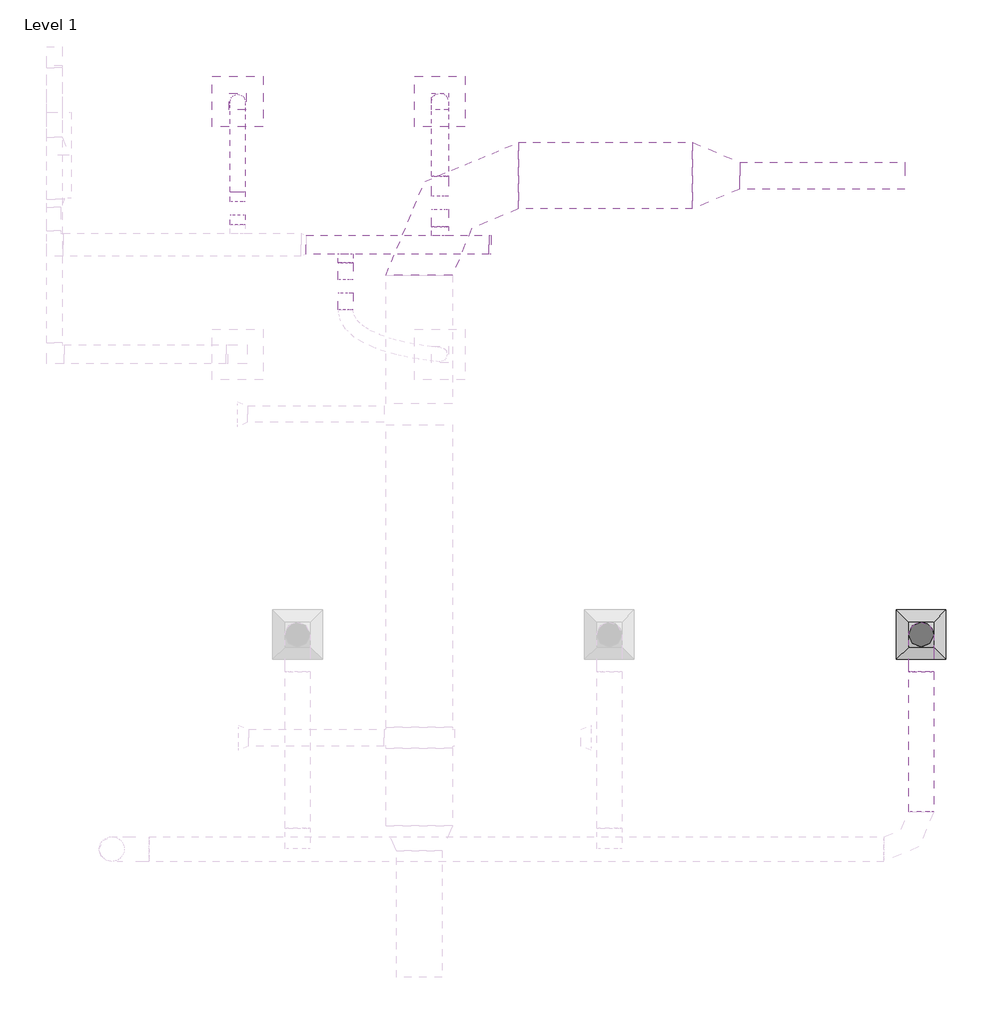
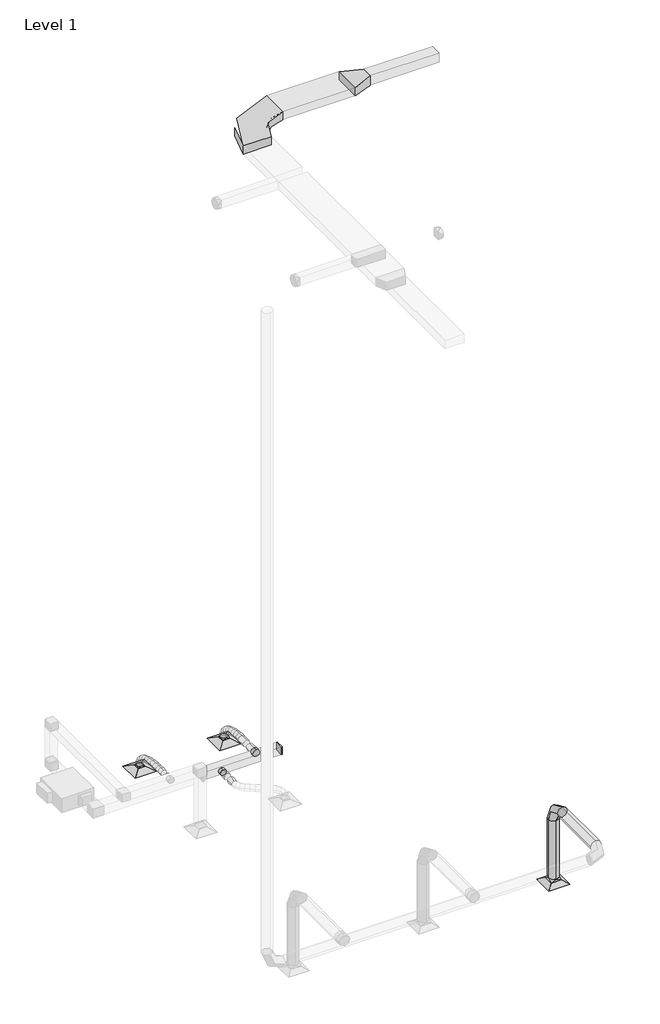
# One storey, part 7 of 7: 13 duct segments, 9 duct fittings, 3 air terminals.
"""IFC4 building model written with IfcOpenShell, lengths in millimetres."""

from ifc_helpers import new_model, si_unit, point, frame, frame_2d, origin, place, context, project, spatial, polyline, circle_curve, ellipse_curve, trimmed, segment, composite_curve, outline, extrude, transform, mapped, element, save
from ifc_brep_helpers import plane_surface, cylinder_surface, advanced_brep
from components import extract_grille_600_x_600_face_300_x_300_connection_8a0e72a1, return_diffuser_24_x_24_face_8_x_8_connection_c93705df, rectangular_elbow_radius_1_5_w_4ddcde65, rectangular_endcap_standard_343960f6, rectangular_transition_angle_45_degree_7bdca568, rectangular_to_round_transition_angle_45_degree_641efff0, rectangular_to_round_transition_angle_45_degree_5a025447, rectangular_to_round_transition_angle_45_degree_714b46fd, round_elbow_1_5_d_ee9da881, round_takeoff_standard_1127d77f, round_takeoff_standard_bc61291d

model = new_model("IFC4")

# Units and contexts
model_context = context("Model", 3, world=origin())
ifc_project = project(units=[si_unit("LENGTHUNIT", "METRE", prefix="MILLI")], contexts=[model_context])

# Site, building, storey
site = spatial("IfcSite", under=ifc_project)
building = spatial("IfcBuilding", under=site)
storey = spatial("IfcBuildingStorey", under=building, Name="Level 1", Elevation=0.0)

# Air terminals
placement = place(None, origin())
extract_grille_600_x_600_face_300_x_300_connection_shape = extract_grille_600_x_600_face_300_x_300_connection_8a0e72a1(model_context)
element("IfcAirTerminal", 1, ObjectType="Extract Grille : 600 x 600 Face 300 x 300 Connection", at=placement, inside=storey, context=model_context, shape_type="MappedRepresentation", body=[
    mapped(extract_grille_600_x_600_face_300_x_300_connection_shape, transform((8266.9369932, 10008.5089558, 0.0), x_axis=(1.0, 0.0, 0.0), y_axis=(0.0, 1.0, 0.0), z_axis=(0.0, 0.0, 1.0))),
])
return_diffuser_24_x_24_face_8_x_8_connection_shape = return_diffuser_24_x_24_face_8_x_8_connection_c93705df(model_context)
element("IfcAirTerminal", 2, ObjectType="Supply Diffuser : 24 x 24 Face 8 x 8 Connection", at=placement, inside=storey, context=model_context, shape_type="MappedRepresentation", body=[
    mapped(return_diffuser_24_x_24_face_8_x_8_connection_shape, transform((2464.349745, 16432.0612109, 2438.4), x_axis=(-1.0, 0.0, 0.0), y_axis=(0.0, -1.0, 0.0), z_axis=(0.0, 0.0, 1.0))),
])
element("IfcAirTerminal", 3, ObjectType="Supply Diffuser : 24 x 24 Face 8 x 8 Connection", at=placement, inside=storey, context=model_context, shape_type="MappedRepresentation", body=[
    mapped(return_diffuser_24_x_24_face_8_x_8_connection_shape, transform((25.949745, 16432.0612109, 2438.4), x_axis=(-1.0, 0.0, 0.0), y_axis=(0.0, -1.0, 0.0), z_axis=(0.0, 0.0, 1.0))),
])

# Duct fittings
rectangular_elbow_radius_1_5_w_shape = rectangular_elbow_radius_1_5_w_4ddcde65(model_context)
element("IfcDuctFitting", 4, ObjectType="Rectangular Elbow - Radius : 1.5 W", at=placement, inside=storey, context=model_context, shape_type="MappedRepresentation", body=[
    mapped(rectangular_elbow_radius_1_5_w_shape, transform((2213.8567543, 15535.7629451, 21983.425), x_axis=(-1.0, 0.0, 0.0), y_axis=(0.0, -1.0, 0.0), z_axis=(0.0, 0.0, 1.0))),
])
rectangular_endcap_standard_shape = rectangular_endcap_standard_343960f6(model_context)
element("IfcDuctFitting", 5, ObjectType="Rectangular Endcap : Standard", at=placement, inside=storey, context=model_context, shape_type="MappedRepresentation", body=[
    mapped(rectangular_endcap_standard_shape, transform((3053.9237272, 14707.0448996, 3048.0), x_axis=(1.0, 0.0, 0.0), y_axis=(0.0, 1.0, 0.0), z_axis=(0.0, 0.0, 1.0))),
])
rectangular_transition_angle_45_degree_shape = rectangular_transition_angle_45_degree_7bdca568(model_context)
element("IfcDuctFitting", 6, ObjectType="Rectangular Transition - Angle : 45 Degree", at=placement, inside=storey, context=model_context, shape_type="MappedRepresentation", body=[
    mapped(rectangular_transition_angle_45_degree_shape, transform((5510.1940072, 15535.7629451, 21983.425), x_axis=(1.0, 0.0, 0.0), y_axis=(0.0, 1.0, 0.0), z_axis=(0.0, 0.0, 1.0))),
])
rectangular_to_round_transition_angle_45_degree_shape = rectangular_to_round_transition_angle_45_degree_641efff0(model_context)
element("IfcDuctFitting", 7, ObjectType="Rectangular to Round Transition - Angle : 45 Degree", at=placement, inside=storey, context=model_context, shape_type="MappedRepresentation", body=[
    mapped(rectangular_to_round_transition_angle_45_degree_shape, transform((8266.9369932, 10008.5089558, 100.0), x_axis=(0.0, 0.0, 1.0), y_axis=(1.0, 0.0, 0.0), z_axis=(0.0, 1.0, 0.0))),
])
rectangular_to_round_transition_angle_45_degree_2_shape = rectangular_to_round_transition_angle_45_degree_5a025447(model_context)
element("IfcDuctFitting", 8, ObjectType="Rectangular to Round Transition - Angle : 45 Degree", at=placement, inside=storey, context=model_context, shape_type="MappedRepresentation", body=[
    mapped(rectangular_to_round_transition_angle_45_degree_2_shape, transform((2464.349745, 16432.0612109, 2540.0), x_axis=(0.0, 0.0, 1.0), y_axis=(-1.0, 0.0, 0.0), z_axis=(0.0, -1.0, 0.0))),
])
rectangular_to_round_transition_angle_45_degree_3_shape = rectangular_to_round_transition_angle_45_degree_714b46fd(model_context)
element("IfcDuctFitting", 9, ObjectType="Rectangular to Round Transition - Angle : 45 Degree", at=placement, inside=storey, context=model_context, shape_type="MappedRepresentation", body=[
    mapped(rectangular_to_round_transition_angle_45_degree_3_shape, transform((25.949745, 16432.0612109, 2540.0), x_axis=(0.0, 0.0, 1.0), y_axis=(1.0, 0.0, 0.0), z_axis=(0.0, 1.0, 0.0))),
])
round_elbow_1_5_d_shape = round_elbow_1_5_d_ee9da881(model_context)
element("IfcDuctFitting", 10, ObjectType="Round Elbow : 1.5 D", at=placement, inside=storey, context=model_context, shape_type="MappedRepresentation", body=[
    mapped(round_elbow_1_5_d_shape, transform((8266.9369932, 10008.5089558, 2400.0), x_axis=(0.0, 0.0, 1.0), y_axis=(0.0, -1.0, 0.0), z_axis=(1.0, 0.0, 0.0))),
])
round_takeoff_standard_shape = round_takeoff_standard_1127d77f(model_context)
element("IfcDuctFitting", 11, ObjectType="Round Takeoff : Standard", at=placement, inside=storey, context=model_context, shape_type="MappedRepresentation", body=[
    mapped(round_takeoff_standard_shape, transform((2464.349745, 14821.3448996, 3048.0), x_axis=(0.0, 1.0, 0.0), y_axis=(1.0, 0.0, 0.0), z_axis=(0.0, 0.0, -1.0))),
])
round_takeoff_standard_2_shape = round_takeoff_standard_bc61291d(model_context)
element("IfcDuctFitting", 12, ObjectType="Round Takeoff : Standard", at=placement, inside=storey, context=model_context, shape_type="MappedRepresentation", body=[
    mapped(round_takeoff_standard_2_shape, transform((1326.7541755, 14592.7448996, 3048.0), x_axis=(0.0, -1.0, 0.0), y_axis=(-1.0, 0.0, 0.0), z_axis=(0.0, 0.0, -1.0))),
])

# Duct segments
element("IfcDuctSegment", 13, ObjectType="Flex - Round", at=placement, inside=storey, context=model_context, shape_type="AdvancedBrep", body=[
    advanced_brep(
    [(114.849745, 16432.0612109, 2570.6605122), (25.949745, 16343.1612109, 2570.6605122), (-62.950255, 16432.0612109, 2570.6605122), (25.949745, 16520.9612109, 2570.6605122), (114.849745, 16432.0612109, 2586.4523181), (25.949745, 16343.1612109, 2577.1822102), (-62.950255, 16432.0612109, 2586.4523181), (25.949745, 16520.9612109, 2595.722426), (114.849745, 15342.0448996, 3048.0), (25.949745, 15343.9050086, 3136.8805378), (-62.950255, 15342.0448996, 3048.0), (25.949745, 15340.1847905, 2959.1194622), (114.849745, 16412.2503327, 2680.4122246), (25.949745, 16328.3527096, 2647.4166232), (-62.950255, 16412.2503327, 2680.4122246), (25.949745, 16496.1479558, 2713.4078261), (114.849745, 16356.7780159, 2772.6178247), (25.949745, 16287.5346166, 2715.2641005), (-62.950255, 16356.7780159, 2772.6178247), (25.949745, 16426.0214153, 2829.9715488), (114.849745, 16271.5847373, 2848.6889575), (25.949745, 16219.5681328, 2775.9530129), (-62.950255, 16271.5847373, 2848.6889575), (25.949745, 16323.6013419, 2921.4249021), (114.849745, 16162.6109736, 2910.0372683), (25.949745, 16124.8455011, 2829.2784488), (-62.950255, 16162.6109736, 2910.0372683), (25.949745, 16200.3764461, 2990.7960879), (114.849745, 16035.7972014, 2958.0744023), (25.949745, 16008.7676244, 2873.248819), (-62.950255, 16035.7972014, 2958.0744023), (25.949745, 16062.8267785, 3042.8999856), (114.849745, 15897.0838976, 2994.2120046), (25.949745, 15878.0881517, 2907.2934469), (-62.950255, 15897.0838976, 2994.2120046), (25.949745, 15916.0796434, 3081.1305623), (114.849745, 15752.4115387, 3019.8617203), (25.949745, 15739.5812796, 2931.8500514), (-62.950255, 15752.4115387, 3019.8617203), (25.949745, 15765.2417978, 3107.8733893), (114.849745, 15607.7206016, 3036.4351947), (25.949745, 15599.8094701, 2947.8600693), (-62.950255, 15607.7206016, 3036.4351947), (25.949745, 15615.6317332, 3125.0103201), (114.849745, 15468.951563, 3045.3440729), (25.949745, 15465.1719493, 2956.5037069), (-62.950255, 15468.951563, 3045.3440729), (25.949745, 15472.7311768, 3134.1844389)],
    [
        (0, 1, circle_curve(frame((25.949745, 16432.0612109, 2570.6605122), z_axis=(0.0, 0.0, -1.0), x_axis=(1.0, 0.0, 0.0)), 88.9)),
        (1, 2, circle_curve(frame((25.949745, 16432.0612109, 2570.6605122), z_axis=(0.0, 0.0, -1.0), x_axis=(1.0, 0.0, 0.0)), 88.9)),
        (2, 3, circle_curve(frame((25.949745, 16432.0612109, 2570.6605122), z_axis=(0.0, 0.0, -1.0), x_axis=(1.0, 0.0, 0.0)), 88.9)),
        (3, 0, circle_curve(frame((25.949745, 16432.0612109, 2570.6605122), z_axis=(0.0, 0.0, -1.0), x_axis=(1.0, 0.0, 0.0)), 88.9)),
        (0, 4),
        (4, 5, ellipse_curve(frame((25.949745, 16432.0612109, 2586.4523181), z_axis=(0.0, 0.10371334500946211, -0.9946072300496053), x_axis=(0.0, -0.9946072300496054, -0.10371334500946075)), 89.3820167, 88.9)),
        (5, 1),
        (5, 6, ellipse_curve(frame((25.949745, 16432.0612109, 2586.4523181), z_axis=(0.0, 0.10371334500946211, -0.9946072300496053), x_axis=(0.0, -0.9946072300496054, -0.10371334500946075)), 89.3820167, 88.9)),
        (6, 2),
        (6, 7, ellipse_curve(frame((25.949745, 16432.0612109, 2586.4523181), z_axis=(0.0, 0.10371334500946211, -0.9946072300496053), x_axis=(0.0, -0.9946072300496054, -0.10371334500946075)), 89.3820167, 88.9)),
        (7, 3),
        (7, 4, ellipse_curve(frame((25.949745, 16432.0612109, 2586.4523181), z_axis=(0.0, 0.10371334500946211, -0.9946072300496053), x_axis=(0.0, -0.9946072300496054, -0.10371334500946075)), 89.3820167, 88.9)),
        (8, 9, circle_curve(frame((25.949745, 15342.0448996, 3048.0), z_axis=(0.0, -0.9997810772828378, 0.020923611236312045), x_axis=(1.0, 0.0, 0.0)), 88.9)),
        (9, 10, circle_curve(frame((25.949745, 15342.0448996, 3048.0), z_axis=(0.0, -0.9997810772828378, 0.020923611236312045), x_axis=(1.0, 0.0, 0.0)), 88.9)),
        (10, 11, circle_curve(frame((25.949745, 15342.0448996, 3048.0), z_axis=(0.0, -0.9997810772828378, 0.020923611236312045), x_axis=(1.0, 0.0, 0.0)), 88.9)),
        (11, 8, circle_curve(frame((25.949745, 15342.0448996, 3048.0), z_axis=(0.0, -0.9997810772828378, 0.020923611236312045), x_axis=(1.0, 0.0, 0.0)), 88.9)),
        (4, 12),
        (12, 13, ellipse_curve(frame((25.949745, 16412.2503327, 2680.4122246), z_axis=(0.0, 0.3659965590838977, -0.930616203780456), x_axis=(0.0, -0.9306162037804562, -0.36599655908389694)), 90.1527642, 88.9)),
        (13, 5),
        (13, 14, ellipse_curve(frame((25.949745, 16412.2503327, 2680.4122246), z_axis=(0.0, 0.3659965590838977, -0.930616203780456), x_axis=(0.0, -0.9306162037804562, -0.36599655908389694)), 90.1527642, 88.9)),
        (14, 6),
        (14, 15, ellipse_curve(frame((25.949745, 16412.2503327, 2680.4122246), z_axis=(0.0, 0.3659965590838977, -0.930616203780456), x_axis=(0.0, -0.9306162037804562, -0.36599655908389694)), 90.1527642, 88.9)),
        (15, 7),
        (15, 12, ellipse_curve(frame((25.949745, 16412.2503327, 2680.4122246), z_axis=(0.0, 0.3659965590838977, -0.930616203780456), x_axis=(0.0, -0.9306162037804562, -0.36599655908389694)), 90.1527642, 88.9)),
        (12, 16),
        (16, 17, ellipse_curve(frame((25.949745, 16356.7780159, 2772.6178247), z_axis=(0.0, 0.6378900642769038, -0.770127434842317), x_axis=(0.0, -0.7701274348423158, -0.6378900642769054)), 89.9116123, 88.9)),
        (17, 13),
        (17, 18, ellipse_curve(frame((25.949745, 16356.7780159, 2772.6178247), z_axis=(0.0, 0.6378900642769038, -0.770127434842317), x_axis=(0.0, -0.7701274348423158, -0.6378900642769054)), 89.9116123, 88.9)),
        (18, 14),
        (18, 19, ellipse_curve(frame((25.949745, 16356.7780159, 2772.6178247), z_axis=(0.0, 0.6378900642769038, -0.770127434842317), x_axis=(0.0, -0.7701274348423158, -0.6378900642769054)), 89.9116123, 88.9)),
        (19, 15),
        (19, 16, ellipse_curve(frame((25.949745, 16356.7780159, 2772.6178247), z_axis=(0.0, 0.6378900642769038, -0.770127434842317), x_axis=(0.0, -0.7701274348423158, -0.6378900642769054)), 89.9116123, 88.9)),
        (16, 20),
        (20, 21, ellipse_curve(frame((25.949745, 16271.5847373, 2848.6889575), z_axis=(0.0, 0.8134035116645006, -0.5816998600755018), x_axis=(0.0, -0.5816998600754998, -0.8134035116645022)), 89.4217244, 88.9)),
        (21, 17),
        (21, 22, ellipse_curve(frame((25.949745, 16271.5847373, 2848.6889575), z_axis=(0.0, 0.8134035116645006, -0.5816998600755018), x_axis=(0.0, -0.5816998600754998, -0.8134035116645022)), 89.4217244, 88.9)),
        (22, 18),
        (22, 23, ellipse_curve(frame((25.949745, 16271.5847373, 2848.6889575), z_axis=(0.0, 0.8134035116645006, -0.5816998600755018), x_axis=(0.0, -0.5816998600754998, -0.8134035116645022)), 89.4217244, 88.9)),
        (23, 19),
        (23, 20, ellipse_curve(frame((25.949745, 16271.5847373, 2848.6889575), z_axis=(0.0, 0.8134035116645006, -0.5816998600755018), x_axis=(0.0, -0.5816998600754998, -0.8134035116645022)), 89.4217244, 88.9)),
        (20, 24),
        (24, 25, ellipse_curve(frame((25.949745, 16162.6109736, 2910.0372683), z_axis=(0.0, 0.9058474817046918, -0.4236039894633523), x_axis=(0.0, -0.42360398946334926, -0.9058474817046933)), 89.1527782, 88.9)),
        (25, 21),
        (25, 26, ellipse_curve(frame((25.949745, 16162.6109736, 2910.0372683), z_axis=(0.0, 0.9058474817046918, -0.4236039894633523), x_axis=(0.0, -0.42360398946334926, -0.9058474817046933)), 89.1527782, 88.9)),
        (26, 22),
        (26, 27, ellipse_curve(frame((25.949745, 16162.6109736, 2910.0372683), z_axis=(0.0, 0.9058474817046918, -0.4236039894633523), x_axis=(0.0, -0.42360398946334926, -0.9058474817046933)), 89.1527782, 88.9)),
        (27, 23),
        (27, 24, ellipse_curve(frame((25.949745, 16162.6109736, 2910.0372683), z_axis=(0.0, 0.9058474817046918, -0.4236039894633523), x_axis=(0.0, -0.42360398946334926, -0.9058474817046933)), 89.1527782, 88.9)),
        (24, 28),
        (28, 29, ellipse_curve(frame((25.949745, 16035.7972014, 2958.0744023), z_axis=(0.0, 0.9527971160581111, -0.30360773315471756), x_axis=(0.0, -0.30360773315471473, -0.9527971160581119)), 89.0279598, 88.9)),
        (29, 25),
        (29, 30, ellipse_curve(frame((25.949745, 16035.7972014, 2958.0744023), z_axis=(0.0, 0.9527971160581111, -0.30360773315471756), x_axis=(0.0, -0.30360773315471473, -0.9527971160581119)), 89.0279598, 88.9)),
        (30, 26),
        (30, 31, ellipse_curve(frame((25.949745, 16035.7972014, 2958.0744023), z_axis=(0.0, 0.9527971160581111, -0.30360773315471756), x_axis=(0.0, -0.30360773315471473, -0.9527971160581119)), 89.0279598, 88.9)),
        (31, 27),
        (31, 28, ellipse_curve(frame((25.949745, 16035.7972014, 2958.0744023), z_axis=(0.0, 0.9527971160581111, -0.30360773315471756), x_axis=(0.0, -0.30360773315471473, -0.9527971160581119)), 89.0279598, 88.9)),
        (28, 32),
        (32, 33, ellipse_curve(frame((25.949745, 15897.0838976, 2994.2120046), z_axis=(0.0, 0.9769415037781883, -0.2135071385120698), x_axis=(0.0, -0.21350713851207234, -0.9769415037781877)), 88.9700738, 88.9)),
        (33, 29),
        (33, 34, ellipse_curve(frame((25.949745, 15897.0838976, 2994.2120046), z_axis=(0.0, 0.9769415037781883, -0.2135071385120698), x_axis=(0.0, -0.21350713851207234, -0.9769415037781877)), 88.9700738, 88.9)),
        (34, 30),
        (34, 35, ellipse_curve(frame((25.949745, 15897.0838976, 2994.2120046), z_axis=(0.0, 0.9769415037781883, -0.2135071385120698), x_axis=(0.0, -0.21350713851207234, -0.9769415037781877)), 88.9700738, 88.9)),
        (35, 31),
        (35, 32, ellipse_curve(frame((25.949745, 15897.0838976, 2994.2120046), z_axis=(0.0, 0.9769415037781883, -0.2135071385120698), x_axis=(0.0, -0.21350713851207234, -0.9769415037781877)), 88.9700738, 88.9)),
        (32, 36),
        (36, 37, ellipse_curve(frame((25.949745, 15752.4115387, 3019.8617203), z_axis=(0.0, 0.9895406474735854, -0.14425431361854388), x_axis=(0.0, -0.14425431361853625, -0.9895406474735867)), 88.9419441, 88.9)),
        (37, 33),
        (37, 38, ellipse_curve(frame((25.949745, 15752.4115387, 3019.8617203), z_axis=(0.0, 0.9895406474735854, -0.14425431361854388), x_axis=(0.0, -0.14425431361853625, -0.9895406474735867)), 88.9419441, 88.9)),
        (38, 34),
        (38, 39, ellipse_curve(frame((25.949745, 15752.4115387, 3019.8617203), z_axis=(0.0, 0.9895406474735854, -0.14425431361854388), x_axis=(0.0, -0.14425431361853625, -0.9895406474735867)), 88.9419441, 88.9)),
        (39, 35),
        (39, 36, ellipse_curve(frame((25.949745, 15752.4115387, 3019.8617203), z_axis=(0.0, 0.9895406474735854, -0.14425431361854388), x_axis=(0.0, -0.14425431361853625, -0.9895406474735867)), 88.9419441, 88.9)),
        (36, 40),
        (40, 41, ellipse_curve(frame((25.949745, 15607.7206016, 3036.4351947), z_axis=(0.0, 0.9960350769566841, -0.08896137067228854), x_axis=(0.0, -0.08896137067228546, -0.9960350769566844)), 88.9277169, 88.9)),
        (41, 37),
        (41, 42, ellipse_curve(frame((25.949745, 15607.7206016, 3036.4351947), z_axis=(0.0, 0.9960350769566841, -0.08896137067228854), x_axis=(0.0, -0.08896137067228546, -0.9960350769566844)), 88.9277169, 88.9)),
        (42, 38),
        (42, 43, ellipse_curve(frame((25.949745, 15607.7206016, 3036.4351947), z_axis=(0.0, 0.9960350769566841, -0.08896137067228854), x_axis=(0.0, -0.08896137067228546, -0.9960350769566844)), 88.9277169, 88.9)),
        (43, 39),
        (43, 40, ellipse_curve(frame((25.949745, 15607.7206016, 3036.4351947), z_axis=(0.0, 0.9960350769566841, -0.08896137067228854), x_axis=(0.0, -0.08896137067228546, -0.9960350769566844)), 88.9277169, 88.9)),
        (40, 44),
        (44, 45, ellipse_curve(frame((25.949745, 15468.951563, 3045.3440729), z_axis=(0.0, 0.9990962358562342, -0.04250542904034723), x_axis=(0.0, -0.0425054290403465, -0.9990962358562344)), 88.9207294, 88.9)),
        (45, 41),
        (45, 46, ellipse_curve(frame((25.949745, 15468.951563, 3045.3440729), z_axis=(0.0, 0.9990962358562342, -0.04250542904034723), x_axis=(0.0, -0.0425054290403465, -0.9990962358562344)), 88.9207294, 88.9)),
        (46, 42),
        (46, 47, ellipse_curve(frame((25.949745, 15468.951563, 3045.3440729), z_axis=(0.0, 0.9990962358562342, -0.04250542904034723), x_axis=(0.0, -0.0425054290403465, -0.9990962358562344)), 88.9207294, 88.9)),
        (47, 43),
        (47, 44, ellipse_curve(frame((25.949745, 15468.951563, 3045.3440729), z_axis=(0.0, 0.9990962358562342, -0.04250542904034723), x_axis=(0.0, -0.0425054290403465, -0.9990962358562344)), 88.9207294, 88.9)),
        (44, 8),
        (11, 45),
        (10, 46),
        (9, 47),
    ],
    [
        plane_surface(frame((25.949745, 16343.1612109, 2570.6605122), z_axis=(0.0, 0.0, -1.0), x_axis=(1.0, 0.0, 0.0))),
        cylinder_surface(frame((25.949745, 16432.0612109, 2570.6605122), z_axis=(0.0, 0.0, -1.0), x_axis=(1.0, 0.0, 0.0)), 88.9),
        plane_surface(frame((25.949745, 15340.1847905, 2959.1194622), z_axis=(0.0, -0.9997810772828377, 0.020923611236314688), x_axis=(1.0, 0.0, 0.0))),
        cylinder_surface(frame((25.949745, 16432.0612109, 2586.4523181), z_axis=(0.0, 0.20630808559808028, -0.9784870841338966), x_axis=(1.0, 0.0, 0.0)), 88.9),
        cylinder_surface(frame((25.949745, 16412.2503327, 2680.4122246), z_axis=(0.0, 0.5155132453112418, -0.8568816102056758), x_axis=(1.0, 0.0, 0.0)), 88.9),
        cylinder_surface(frame((25.949745, 16356.7780159, 2772.6178247), z_axis=(0.0, 0.7459128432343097, -0.6660435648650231), x_axis=(1.0, 0.0, 0.0)), 88.9),
        cylinder_surface(frame((25.949745, 16271.5847373, 2848.6889575), z_axis=(0.0, 0.8714026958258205, -0.4905683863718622), x_axis=(1.0, 0.0, 0.0)), 88.9),
        cylinder_surface(frame((25.949745, 16162.6109736, 2910.0372683), z_axis=(0.0, 0.9351555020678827, -0.35423747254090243), x_axis=(1.0, 0.0, 0.0)), 88.9),
        cylinder_surface(frame((25.949745, 16035.7972014, 2958.0744023), z_axis=(0.0, 0.9676998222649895, -0.2521052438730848), x_axis=(1.0, 0.0, 0.0)), 88.9),
        cylinder_surface(frame((25.949745, 15897.0838976, 2994.2120046), z_axis=(0.0, 0.9846442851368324, -0.17457271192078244), x_axis=(1.0, 0.0, 0.0)), 88.9),
        cylinder_surface(frame((25.949745, 15752.4115387, 3019.8617203), z_axis=(0.0, 0.9935036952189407, -0.11379985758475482), x_axis=(1.0, 0.0, 0.0)), 88.9),
        cylinder_surface(frame((25.949745, 15607.7206016, 3036.4351947), z_axis=(0.0, 0.9979455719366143, -0.06406742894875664), x_axis=(1.0, 0.0, 0.0)), 88.9),
        cylinder_surface(frame((25.949745, 15468.951563, 3045.3440729), z_axis=(0.0, 0.9997810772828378, -0.020923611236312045), x_axis=(1.0, 0.0, 0.0)), 88.9),
    ],
    [
        (0, [[1, 2, 3, 4]]),
        (1, [[-1, 5, 6, 7]]),
        (1, [[-2, -7, 8, 9]]),
        (1, [[-3, -9, 10, 11]]),
        (1, [[-4, -11, 12, -5]]),
        (2, [[13, 14, 15, 16]]),
        (3, [[-6, 17, 18, 19]]),
        (3, [[-8, -19, 20, 21]]),
        (3, [[-10, -21, 22, 23]]),
        (3, [[-12, -23, 24, -17]]),
        (4, [[-18, 25, 26, 27]]),
        (4, [[-20, -27, 28, 29]]),
        (4, [[-22, -29, 30, 31]]),
        (4, [[-24, -31, 32, -25]]),
        (5, [[-26, 33, 34, 35]]),
        (5, [[-28, -35, 36, 37]]),
        (5, [[-30, -37, 38, 39]]),
        (5, [[-32, -39, 40, -33]]),
        (6, [[-34, 41, 42, 43]]),
        (6, [[-36, -43, 44, 45]]),
        (6, [[-38, -45, 46, 47]]),
        (6, [[-40, -47, 48, -41]]),
        (7, [[-42, 49, 50, 51]]),
        (7, [[-44, -51, 52, 53]]),
        (7, [[-46, -53, 54, 55]]),
        (7, [[-48, -55, 56, -49]]),
        (8, [[-50, 57, 58, 59]]),
        (8, [[-52, -59, 60, 61]]),
        (8, [[-54, -61, 62, 63]]),
        (8, [[-56, -63, 64, -57]]),
        (9, [[-58, 65, 66, 67]]),
        (9, [[-60, -67, 68, 69]]),
        (9, [[-62, -69, 70, 71]]),
        (9, [[-64, -71, 72, -65]]),
        (10, [[-66, 73, 74, 75]]),
        (10, [[-68, -75, 76, 77]]),
        (10, [[-70, -77, 78, 79]]),
        (10, [[-72, -79, 80, -73]]),
        (11, [[-74, 81, 82, 83]]),
        (11, [[-76, -83, 84, 85]]),
        (11, [[-78, -85, 86, 87]]),
        (11, [[-80, -87, 88, -81]]),
        (12, [[-82, 89, -16, 90]]),
        (12, [[-84, -90, -15, 91]]),
        (12, [[-86, -91, -14, 92]]),
        (12, [[-88, -92, -13, -89]]),
    ],
),
])
element("IfcDuctSegment", 14, ObjectType="Flex - Round", at=placement, inside=storey, context=model_context, shape_type="AdvancedBrep", body=[
    advanced_brep(
    [(2565.949745, 16432.0612109, 2590.8), (2464.349745, 16330.4612109, 2590.8), (2362.749745, 16432.0612109, 2590.8), (2464.349745, 16533.6612109, 2590.8), (2565.949745, 16432.0612109, 2609.7423005), (2464.349745, 16330.4612109, 2598.1183992), (2362.749745, 16432.0612109, 2609.7423005), (2464.349745, 16533.6612109, 2621.3662019), (2565.949745, 16412.2576773, 2695.1569459), (2464.349745, 16317.0524166, 2655.9518865), (2362.749745, 16412.2576773, 2695.1569459), (2464.349745, 16507.462938, 2734.3620054), (2565.949745, 16357.1889538, 2784.2868512), (2464.349745, 16278.5400339, 2718.2850005), (2362.749745, 16357.1889538, 2784.2868512), (2464.349745, 16435.8378737, 2850.2887019), (2565.949745, 16273.3678563, 2858.9773463), (2464.349745, 16213.6032223, 2776.1482682), (2362.749745, 16273.3678563, 2858.9773463), (2464.349745, 16333.1324903, 2941.8064243), (2565.949745, 16167.3072005, 2920.0160613), (2464.349745, 16123.0483006, 2828.2633153), (2362.749745, 16167.3072005, 2920.0160613), (2464.349745, 16211.5661005, 3011.7688074), (2565.949745, 16045.5198025, 2968.1906269), (2464.349745, 16013.2451179, 2871.6973709), (2362.749745, 16045.5198025, 2968.1906269), (2464.349745, 16077.794487, 3064.6838828), (2565.949745, 15914.5184779, 3004.2886731), (2464.349745, 15891.7137076, 2905.1859366), (2362.749745, 15914.5184779, 3004.2886731), (2464.349745, 15937.3232482, 3103.3914096), (2565.949745, 15780.8160427, 3029.0978305), (2464.349745, 15765.9657145, 2928.5191074), (2362.749745, 15780.8160427, 3029.0978305), (2464.349745, 15795.6663709, 3129.6765536), (2565.949745, 15650.9253127, 3043.4057294), (2464.349745, 15643.3376633, 2942.0269979), (2362.749745, 15650.9253127, 3043.4057294), (2464.349745, 15658.5129622, 3144.7844608), (2565.949745, 15535.2601533, 3048.0), (2464.349745, 15533.2431504, 2946.4), (2362.749745, 15535.2601533, 3048.0), (2464.349745, 15537.2771563, 3149.6), (2565.949745, 15531.3591039, 3048.0), (2464.349745, 15531.3591039, 2946.4), (2362.749745, 15531.3591039, 3048.0), (2464.349745, 15531.3591039, 3149.6)],
    [
        (0, 1, circle_curve(frame((2464.349745, 16432.0612109, 2590.8), z_axis=(0.0, 0.0, -1.0), x_axis=(1.0, 0.0, 0.0)), 101.6)),
        (1, 2, circle_curve(frame((2464.349745, 16432.0612109, 2590.8), z_axis=(0.0, 0.0, -1.0), x_axis=(1.0, 0.0, 0.0)), 101.6)),
        (2, 3, circle_curve(frame((2464.349745, 16432.0612109, 2590.8), z_axis=(0.0, 0.0, -1.0), x_axis=(1.0, 0.0, 0.0)), 101.6)),
        (3, 0, circle_curve(frame((2464.349745, 16432.0612109, 2590.8), z_axis=(0.0, 0.0, -1.0), x_axis=(1.0, 0.0, 0.0)), 101.6)),
        (0, 4),
        (4, 5, ellipse_curve(frame((2464.349745, 16432.0612109, 2609.7423005), z_axis=(0.0, 0.1136669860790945, -0.9935189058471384), x_axis=(0.0, -0.9935189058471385, -0.11366698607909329)), 102.2627747, 101.6)),
        (5, 1),
        (5, 6, ellipse_curve(frame((2464.349745, 16432.0612109, 2609.7423005), z_axis=(0.0, 0.1136669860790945, -0.9935189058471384), x_axis=(0.0, -0.9935189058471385, -0.11366698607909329)), 102.2627747, 101.6)),
        (6, 2),
        (6, 7, ellipse_curve(frame((2464.349745, 16432.0612109, 2609.7423005), z_axis=(0.0, 0.1136669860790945, -0.9935189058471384), x_axis=(0.0, -0.9935189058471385, -0.11366698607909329)), 102.2627747, 101.6)),
        (7, 3),
        (7, 4, ellipse_curve(frame((2464.349745, 16432.0612109, 2609.7423005), z_axis=(0.0, 0.1136669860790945, -0.9935189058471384), x_axis=(0.0, -0.9935189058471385, -0.11366698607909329)), 102.2627747, 101.6)),
        (4, 8),
        (8, 9, ellipse_curve(frame((2464.349745, 16412.2576773, 2695.1569459), z_axis=(0.0, 0.38077383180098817, -0.9246682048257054), x_axis=(0.0, -0.9246682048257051, -0.380773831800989)), 102.9615382, 101.6)),
        (9, 5),
        (9, 10, ellipse_curve(frame((2464.349745, 16412.2576773, 2695.1569459), z_axis=(0.0, 0.38077383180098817, -0.9246682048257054), x_axis=(0.0, -0.9246682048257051, -0.380773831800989)), 102.9615382, 101.6)),
        (10, 6),
        (10, 11, ellipse_curve(frame((2464.349745, 16412.2576773, 2695.1569459), z_axis=(0.0, 0.38077383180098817, -0.9246682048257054), x_axis=(0.0, -0.9246682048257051, -0.380773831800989)), 102.9615382, 101.6)),
        (11, 7),
        (11, 8, ellipse_curve(frame((2464.349745, 16412.2576773, 2695.1569459), z_axis=(0.0, 0.38077383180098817, -0.9246682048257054), x_axis=(0.0, -0.9246682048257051, -0.380773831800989)), 102.9615382, 101.6)),
        (8, 12),
        (12, 13, ellipse_curve(frame((2464.349745, 16357.1889538, 2784.2868512), z_axis=(0.0, 0.64283088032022, -0.7660081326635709), x_axis=(0.0, -0.7660081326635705, -0.6428308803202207)), 102.67374, 101.6)),
        (13, 9),
        (13, 14, ellipse_curve(frame((2464.349745, 16357.1889538, 2784.2868512), z_axis=(0.0, 0.64283088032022, -0.7660081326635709), x_axis=(0.0, -0.7660081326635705, -0.6428308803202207)), 102.67374, 101.6)),
        (14, 10),
        (14, 15, ellipse_curve(frame((2464.349745, 16357.1889538, 2784.2868512), z_axis=(0.0, 0.64283088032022, -0.7660081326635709), x_axis=(0.0, -0.7660081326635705, -0.6428308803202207)), 102.67374, 101.6)),
        (15, 11),
        (15, 12, ellipse_curve(frame((2464.349745, 16357.1889538, 2784.2868512), z_axis=(0.0, 0.64283088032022, -0.7660081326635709), x_axis=(0.0, -0.7660081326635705, -0.6428308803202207)), 102.67374, 101.6)),
        (12, 16),
        (16, 17, ellipse_curve(frame((2464.349745, 16273.3678563, 2858.9773463), z_axis=(0.0, 0.81094108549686, -0.5851278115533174), x_axis=(0.0, -0.5851278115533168, -0.8109410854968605)), 102.1394519, 101.6)),
        (17, 13),
        (17, 18, ellipse_curve(frame((2464.349745, 16273.3678563, 2858.9773463), z_axis=(0.0, 0.81094108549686, -0.5851278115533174), x_axis=(0.0, -0.5851278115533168, -0.8109410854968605)), 102.1394519, 101.6)),
        (18, 14),
        (18, 19, ellipse_curve(frame((2464.349745, 16273.3678563, 2858.9773463), z_axis=(0.0, 0.81094108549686, -0.5851278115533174), x_axis=(0.0, -0.5851278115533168, -0.8109410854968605)), 102.1394519, 101.6)),
        (19, 15),
        (19, 16, ellipse_curve(frame((2464.349745, 16273.3678563, 2858.9773463), z_axis=(0.0, 0.81094108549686, -0.5851278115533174), x_axis=(0.0, -0.5851278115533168, -0.8109410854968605)), 102.1394519, 101.6)),
        (16, 20),
        (20, 21, ellipse_curve(frame((2464.349745, 16167.3072005, 2920.0160613), z_axis=(0.0, 0.9006881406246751, -0.4344661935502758), x_axis=(0.0, -0.4344661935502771, -0.9006881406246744)), 101.869606, 101.6)),
        (21, 17),
        (21, 22, ellipse_curve(frame((2464.349745, 16167.3072005, 2920.0160613), z_axis=(0.0, 0.9006881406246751, -0.4344661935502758), x_axis=(0.0, -0.4344661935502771, -0.9006881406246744)), 101.869606, 101.6)),
        (22, 18),
        (22, 23, ellipse_curve(frame((2464.349745, 16167.3072005, 2920.0160613), z_axis=(0.0, 0.9006881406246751, -0.4344661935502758), x_axis=(0.0, -0.4344661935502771, -0.9006881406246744)), 101.869606, 101.6)),
        (23, 19),
        (23, 20, ellipse_curve(frame((2464.349745, 16167.3072005, 2920.0160613), z_axis=(0.0, 0.9006881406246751, -0.4344661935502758), x_axis=(0.0, -0.4344661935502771, -0.9006881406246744)), 101.869606, 101.6)),
        (20, 24),
        (24, 25, ellipse_curve(frame((2464.349745, 16045.5198025, 2968.1906269), z_axis=(0.0, 0.9483576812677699, -0.31720294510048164), x_axis=(0.0, -0.3172029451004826, -0.9483576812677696)), 101.7477455, 101.6)),
        (25, 21),
        (25, 26, ellipse_curve(frame((2464.349745, 16045.5198025, 2968.1906269), z_axis=(0.0, 0.9483576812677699, -0.31720294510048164), x_axis=(0.0, -0.3172029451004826, -0.9483576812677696)), 101.7477455, 101.6)),
        (26, 22),
        (26, 27, ellipse_curve(frame((2464.349745, 16045.5198025, 2968.1906269), z_axis=(0.0, 0.9483576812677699, -0.31720294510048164), x_axis=(0.0, -0.3172029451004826, -0.9483576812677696)), 101.7477455, 101.6)),
        (27, 23),
        (27, 24, ellipse_curve(frame((2464.349745, 16045.5198025, 2968.1906269), z_axis=(0.0, 0.9483576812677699, -0.31720294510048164), x_axis=(0.0, -0.3172029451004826, -0.9483576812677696)), 101.7477455, 101.6)),
        (24, 28),
        (28, 29, ellipse_curve(frame((2464.349745, 15914.5184779, 3004.2886731), z_axis=(0.0, 0.974531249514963, -0.2242517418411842), x_axis=(0.0, -0.224251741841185, -0.9745312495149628)), 101.6927231, 101.6)),
        (29, 25),
        (29, 30, ellipse_curve(frame((2464.349745, 15914.5184779, 3004.2886731), z_axis=(0.0, 0.974531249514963, -0.2242517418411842), x_axis=(0.0, -0.224251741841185, -0.9745312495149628)), 101.6927231, 101.6)),
        (30, 26),
        (30, 31, ellipse_curve(frame((2464.349745, 15914.5184779, 3004.2886731), z_axis=(0.0, 0.974531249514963, -0.2242517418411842), x_axis=(0.0, -0.224251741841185, -0.9745312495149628)), 101.6927231, 101.6)),
        (31, 27),
        (31, 28, ellipse_curve(frame((2464.349745, 15914.5184779, 3004.2886731), z_axis=(0.0, 0.974531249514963, -0.2242517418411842), x_axis=(0.0, -0.224251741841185, -0.9745312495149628)), 101.6927231, 101.6)),
        (28, 32),
        (32, 33, ellipse_curve(frame((2464.349745, 15780.8160427, 3029.0978305), z_axis=(0.0, 0.9892749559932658, -0.14606526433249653), x_axis=(0.0, -0.14606526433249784, -0.9892749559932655)), 101.669129, 101.6)),
        (33, 29),
        (33, 34, ellipse_curve(frame((2464.349745, 15780.8160427, 3029.0978305), z_axis=(0.0, 0.9892749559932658, -0.14606526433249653), x_axis=(0.0, -0.14606526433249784, -0.9892749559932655)), 101.669129, 101.6)),
        (34, 30),
        (34, 35, ellipse_curve(frame((2464.349745, 15780.8160427, 3029.0978305), z_axis=(0.0, 0.9892749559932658, -0.14606526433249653), x_axis=(0.0, -0.14606526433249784, -0.9892749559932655)), 101.669129, 101.6)),
        (35, 31),
        (35, 32, ellipse_curve(frame((2464.349745, 15780.8160427, 3029.0978305), z_axis=(0.0, 0.9892749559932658, -0.14606526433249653), x_axis=(0.0, -0.14606526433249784, -0.9892749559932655)), 101.669129, 101.6)),
        (32, 36),
        (36, 37, ellipse_curve(frame((2464.349745, 15650.9253127, 3043.4057294), z_axis=(0.0, 0.9972108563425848, -0.07463583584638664), x_axis=(0.0, -0.07463583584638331, -0.9972108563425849)), 101.6622822, 101.6)),
        (37, 33),
        (37, 38, ellipse_curve(frame((2464.349745, 15650.9253127, 3043.4057294), z_axis=(0.0, 0.9972108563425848, -0.07463583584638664), x_axis=(0.0, -0.07463583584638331, -0.9972108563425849)), 101.6622822, 101.6)),
        (38, 34),
        (38, 39, ellipse_curve(frame((2464.349745, 15650.9253127, 3043.4057294), z_axis=(0.0, 0.9972108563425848, -0.07463583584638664), x_axis=(0.0, -0.07463583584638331, -0.9972108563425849)), 101.6622822, 101.6)),
        (39, 35),
        (39, 36, ellipse_curve(frame((2464.349745, 15650.9253127, 3043.4057294), z_axis=(0.0, 0.9972108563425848, -0.07463583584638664), x_axis=(0.0, -0.07463583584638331, -0.9972108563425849)), 101.6622822, 101.6)),
        (36, 40),
        (40, 41, ellipse_curve(frame((2464.349745, 15535.2601533, 3048.0), z_axis=(0.0, 0.9998029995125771, -0.01984848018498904), x_axis=(0.0, -0.019848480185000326, -0.9998029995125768)), 101.6200192, 101.6)),
        (41, 37),
        (41, 42, ellipse_curve(frame((2464.349745, 15535.2601533, 3048.0), z_axis=(0.0, 0.9998029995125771, -0.01984848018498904), x_axis=(0.0, -0.019848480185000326, -0.9998029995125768)), 101.6200192, 101.6)),
        (42, 38),
        (42, 43, ellipse_curve(frame((2464.349745, 15535.2601533, 3048.0), z_axis=(0.0, 0.9998029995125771, -0.01984848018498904), x_axis=(0.0, -0.019848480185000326, -0.9998029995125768)), 101.6200192, 101.6)),
        (43, 39),
        (43, 40, ellipse_curve(frame((2464.349745, 15535.2601533, 3048.0), z_axis=(0.0, 0.9998029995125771, -0.01984848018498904), x_axis=(0.0, -0.019848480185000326, -0.9998029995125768)), 101.6200192, 101.6)),
        (40, 44),
        (44, 45, circle_curve(frame((2464.349745, 15531.3591039, 3048.0), z_axis=(0.0, 1.0, 0.0), x_axis=(1.0, 0.0, 0.0)), 101.6)),
        (45, 41),
        (45, 46, circle_curve(frame((2464.349745, 15531.3591039, 3048.0), z_axis=(0.0, 1.0, 0.0), x_axis=(1.0, 0.0, 0.0)), 101.6)),
        (46, 42),
        (46, 47, circle_curve(frame((2464.349745, 15531.3591039, 3048.0), z_axis=(0.0, 1.0, 0.0), x_axis=(1.0, 0.0, 0.0)), 101.6)),
        (47, 43),
        (47, 44, circle_curve(frame((2464.349745, 15531.3591039, 3048.0), z_axis=(0.0, 1.0, 0.0), x_axis=(1.0, 0.0, 0.0)), 101.6)),
    ],
    [
        plane_surface(frame((2464.349745, 16330.4612109, 2590.8), z_axis=(0.0, 0.0, -1.0), x_axis=(1.0, 0.0, 0.0))),
        cylinder_surface(frame((2464.349745, 16432.0612109, 2590.8), z_axis=(0.0, 0.0, -1.0), x_axis=(1.0, 0.0, 0.0)), 101.6),
        cylinder_surface(frame((2464.349745, 16432.0612109, 2609.7423005), z_axis=(0.0, 0.22586059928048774, -0.9741596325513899), x_axis=(1.0, 0.0, 0.0)), 101.6),
        cylinder_surface(frame((2464.349745, 16412.2576773, 2695.1569459), z_axis=(0.0, 0.5256165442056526, -0.8507216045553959), x_axis=(1.0, 0.0, 0.0)), 101.6),
        cylinder_surface(frame((2464.349745, 16357.1889538, 2784.2868512), z_axis=(0.0, 0.746600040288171, -0.665273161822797), x_axis=(1.0, 0.0, 0.0)), 101.6),
        cylinder_surface(frame((2464.349745, 16273.3678563, 2858.9773463), z_axis=(0.0, 0.8667161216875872, -0.49880172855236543), x_axis=(1.0, 0.0, 0.0)), 101.6),
        cylinder_surface(frame((2464.349745, 16167.3072005, 2920.0160613), z_axis=(0.0, 0.9298926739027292, -0.3678309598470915), x_axis=(1.0, 0.0, 0.0)), 101.6),
        cylinder_surface(frame((2464.349745, 16045.5198025, 2968.1906269), z_axis=(0.0, 0.9640685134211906, -0.26565372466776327), x_axis=(1.0, 0.0, 0.0)), 101.6),
        cylinder_surface(frame((2464.349745, 15914.5184779, 3004.2886731), z_axis=(0.0, 0.9832168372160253, -0.18244081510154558), x_axis=(1.0, 0.0, 0.0)), 101.6),
        cylinder_surface(frame((2464.349745, 15780.8160427, 3029.0978305), z_axis=(0.0, 0.9939877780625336, -0.1094910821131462), x_axis=(1.0, 0.0, 0.0)), 101.6),
        cylinder_surface(frame((2464.349745, 15650.9253127, 3043.4057294), z_axis=(0.0, 0.9992120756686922, -0.039689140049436), x_axis=(1.0, 0.0, 0.0)), 101.6),
        cylinder_surface(frame((2464.349745, 15535.2601533, 3048.0), z_axis=(0.0, 1.0, 0.0), x_axis=(1.0, 0.0, 0.0)), 101.6),
        plane_surface(frame((2362.749745, 15531.3591039, 3048.0), z_axis=(0.0, -1.0, 0.0), x_axis=(0.0, 0.0, -1.0))),
    ],
    [
        (0, [[1, 2, 3, 4]]),
        (1, [[-1, 5, 6, 7]]),
        (1, [[-2, -7, 8, 9]]),
        (1, [[-3, -9, 10, 11]]),
        (1, [[-4, -11, 12, -5]]),
        (2, [[-6, 13, 14, 15]]),
        (2, [[-8, -15, 16, 17]]),
        (2, [[-10, -17, 18, 19]]),
        (2, [[-12, -19, 20, -13]]),
        (3, [[-14, 21, 22, 23]]),
        (3, [[-16, -23, 24, 25]]),
        (3, [[-18, -25, 26, 27]]),
        (3, [[-20, -27, 28, -21]]),
        (4, [[-22, 29, 30, 31]]),
        (4, [[-24, -31, 32, 33]]),
        (4, [[-26, -33, 34, 35]]),
        (4, [[-28, -35, 36, -29]]),
        (5, [[-30, 37, 38, 39]]),
        (5, [[-32, -39, 40, 41]]),
        (5, [[-34, -41, 42, 43]]),
        (5, [[-36, -43, 44, -37]]),
        (6, [[-38, 45, 46, 47]]),
        (6, [[-40, -47, 48, 49]]),
        (6, [[-42, -49, 50, 51]]),
        (6, [[-44, -51, 52, -45]]),
        (7, [[-46, 53, 54, 55]]),
        (7, [[-48, -55, 56, 57]]),
        (7, [[-50, -57, 58, 59]]),
        (7, [[-52, -59, 60, -53]]),
        (8, [[-54, 61, 62, 63]]),
        (8, [[-56, -63, 64, 65]]),
        (8, [[-58, -65, 66, 67]]),
        (8, [[-60, -67, 68, -61]]),
        (9, [[-62, 69, 70, 71]]),
        (9, [[-64, -71, 72, 73]]),
        (9, [[-66, -73, 74, 75]]),
        (9, [[-68, -75, 76, -69]]),
        (10, [[-70, 77, 78, 79]]),
        (10, [[-72, -79, 80, 81]]),
        (10, [[-74, -81, 82, 83]]),
        (10, [[-76, -83, 84, -77]]),
        (11, [[-78, 85, 86, 87]]),
        (11, [[-80, -87, 88, 89]]),
        (11, [[-82, -89, 90, 91]]),
        (11, [[-84, -91, 92, -85]]),
        (12, [[-92, -90, -88, -86]]),
    ],
),
])
element("IfcDuctSegment", 15, ObjectType="Mitered Elbows / Tees", at=placement, inside=storey, context=model_context, shape_type="SweptSolid", body=[
    extrude(outline(polyline([(5510.1940072, 15935.7629451), (5510.1940072, 15135.7629451), (3413.8567543, 15135.7629451), (3413.8567543, 15935.7629451), (5510.1940072, 15935.7629451)])), frame((0.0, 0.0, 21858.425), z_axis=(0.0, 0.0, 1.0), x_axis=(1.0, 0.0, 0.0)), (0.0, 0.0, 1.0), 250.0),
])
element("IfcDuctSegment", 16, ObjectType="Mitered Elbows / Tees", at=placement, inside=storey, context=model_context, shape_type="SweptSolid", body=[
    extrude(outline(polyline([(6081.1253371, 15372.2504451), (6081.1253371, 15699.2754451), (8067.8567542, 15699.2754451), (8067.8567542, 15372.2504451), (6081.1253371, 15372.2504451)])), frame((0.0, 0.0, 21840.55), z_axis=(0.0, 0.0, 1.0), x_axis=(1.0, 0.0, 0.0)), (0.0, 0.0, 1.0), 285.75),
])
element("IfcDuctSegment", 17, ObjectType="Mitered Elbows / Tees", at=placement, inside=storey, context=model_context, shape_type="SweptSolid", body=[
    extrude(outline(polyline([(3053.9237272, 14821.3448996), (3053.9237272, 14592.7448996), (853.9237272, 14592.7448996), (853.9237272, 14821.3448996), (3053.9237272, 14821.3448996)])), frame((0.0, 0.0, 2933.7), z_axis=(0.0, 0.0, 1.0), x_axis=(1.0, 0.0, 0.0)), (0.0, 0.0, 1.0), 228.6),
])
element("IfcDuctSegment", 18, ObjectType="Taps", at=placement, inside=storey, context=model_context, shape_type="SweptSolid", body=[
    extrude(outline(composite_curve([segment(trimmed(circle_curve(frame_2d((8266.9369932, 10008.5089558)), 150.0), [point((8116.9369932, 10008.5089558))], [point((8266.9369932, 10158.5089558))], False, "CARTESIAN"), True, "CONTINUOUS"), segment(trimmed(circle_curve(frame_2d((8266.9369932, 10008.5089558)), 150.0), [point((8266.9369932, 10158.5089558))], [point((8416.9369932, 10008.5089558))], False, "CARTESIAN"), True, "CONTINUOUS"), segment(trimmed(circle_curve(frame_2d((8266.9369932, 10008.5089558)), 150.0), [point((8416.9369932, 10008.5089558))], [point((8266.9369932, 9858.5089558))], False, "CARTESIAN"), True, "CONTINUOUS"), segment(trimmed(circle_curve(frame_2d((8266.9369932, 10008.5089558)), 150.0), [point((8266.9369932, 9858.5089558))], [point((8116.9369932, 10008.5089558))], False, "CARTESIAN"), True, "CONTINUOUS")], self_intersect=False)), frame((0.0, 0.0, 175.0), z_axis=(0.0, 0.0, 1.0), x_axis=(1.0, 0.0, 0.0)), (0.0, 0.0, 1.0), 1775.0),
])
element("IfcDuctSegment", 19, ObjectType="Taps", at=placement, inside=storey, context=model_context, shape_type="SweptSolid", body=[
    extrude(outline(composite_curve([segment(trimmed(circle_curve(frame_2d((2400.0, 8266.9369932)), 150.0), [point((2400.0, 8116.9369932))], [point((2250.0, 8266.9369932))], False, "CARTESIAN"), True, "CONTINUOUS"), segment(trimmed(circle_curve(frame_2d((2400.0, 8266.9369932)), 150.0), [point((2250.0, 8266.9369932))], [point((2400.0, 8416.9369932))], False, "CARTESIAN"), True, "CONTINUOUS"), segment(trimmed(circle_curve(frame_2d((2400.0, 8266.9369932)), 150.0), [point((2400.0, 8416.9369932))], [point((2550.0, 8266.9369932))], False, "CARTESIAN"), True, "CONTINUOUS"), segment(trimmed(circle_curve(frame_2d((2400.0, 8266.9369932)), 150.0), [point((2550.0, 8266.9369932))], [point((2400.0, 8116.9369932))], False, "CARTESIAN"), True, "CONTINUOUS")], self_intersect=False)), frame((0.0, 7872.2278716, 0.0), z_axis=(0.0, 1.0, 0.0), x_axis=(0.0, 0.0, 1.0)), (0.0, 0.0, 1.0), 1686.2810841),
])
element("IfcDuctSegment", 20, ObjectType="Taps", at=placement, inside=storey, context=model_context, shape_type="SweptSolid", body=[
    extrude(outline(composite_curve([segment(trimmed(circle_curve(frame_2d((3048.0, 1326.7541755)), 88.9), [point((3048.0, 1237.8541755))], [point((2959.1, 1326.7541755))], False, "CARTESIAN"), True, "CONTINUOUS"), segment(trimmed(circle_curve(frame_2d((3048.0, 1326.7541755)), 88.9), [point((2959.1, 1326.7541755))], [point((3048.0, 1415.6541755))], False, "CARTESIAN"), True, "CONTINUOUS"), segment(trimmed(circle_curve(frame_2d((3048.0, 1326.7541755)), 88.9), [point((3048.0, 1415.6541755))], [point((3136.9, 1326.7541755))], False, "CARTESIAN"), True, "CONTINUOUS"), segment(trimmed(circle_curve(frame_2d((3048.0, 1326.7541755)), 88.9), [point((3136.9, 1326.7541755))], [point((3048.0, 1237.8541755))], False, "CARTESIAN"), True, "CONTINUOUS")], self_intersect=False)), frame((0.0, 13919.6448996, 0.0), z_axis=(0.0, 1.0, 0.0), x_axis=(0.0, 0.0, 1.0)), (0.0, 0.0, 1.0), 209.55),
])
element("IfcDuctSegment", 21, ObjectType="Taps", at=placement, inside=storey, context=model_context, shape_type="SweptSolid", body=[
    extrude(outline(composite_curve([segment(trimmed(circle_curve(frame_2d((3048.0, 25.949745)), 88.9), [point((3048.0, 114.849745))], [point((3136.9, 25.949745))], False, "CARTESIAN"), True, "CONTINUOUS"), segment(trimmed(circle_curve(frame_2d((3048.0, 25.949745)), 88.9), [point((3136.9, 25.949745))], [point((3048.0, -62.950255))], False, "CARTESIAN"), True, "CONTINUOUS"), segment(trimmed(circle_curve(frame_2d((3048.0, 25.949745)), 88.9), [point((3048.0, -62.950255))], [point((2959.1, 25.949745))], False, "CARTESIAN"), True, "CONTINUOUS"), segment(trimmed(circle_curve(frame_2d((3048.0, 25.949745)), 88.9), [point((2959.1, 25.949745))], [point((3048.0, 114.849745))], False, "CARTESIAN"), True, "CONTINUOUS")], self_intersect=False)), frame((0.0, 15221.3948996, 0.0), z_axis=(0.0, 1.0, 0.0), x_axis=(0.0, 0.0, 1.0)), (0.0, 0.0, 1.0), 120.65),
])
element("IfcDuctSegment", 22, ObjectType="Taps", at=placement, inside=storey, context=model_context, shape_type="SweptSolid", body=[
    extrude(outline(composite_curve([segment(trimmed(circle_curve(frame_2d((3048.0, 25.949745)), 88.9), [point((3048.0, 114.849745))], [point((3136.9, 25.949745))], False, "CARTESIAN"), True, "CONTINUOUS"), segment(trimmed(circle_curve(frame_2d((3048.0, 25.949745)), 88.9), [point((3136.9, 25.949745))], [point((3048.0, -62.950255))], False, "CARTESIAN"), True, "CONTINUOUS"), segment(trimmed(circle_curve(frame_2d((3048.0, 25.949745)), 88.9), [point((3048.0, -62.950255))], [point((2959.1, 25.949745))], False, "CARTESIAN"), True, "CONTINUOUS"), segment(trimmed(circle_curve(frame_2d((3048.0, 25.949745)), 88.9), [point((2959.1, 25.949745))], [point((3048.0, 114.849745))], False, "CARTESIAN"), True, "CONTINUOUS")], self_intersect=False)), frame((0.0, 14948.3448996, 0.0), z_axis=(0.0, 1.0, 0.0), x_axis=(0.0, 0.0, 1.0)), (0.0, 0.0, 1.0), 120.65),
])
element("IfcDuctSegment", 23, ObjectType="Taps", at=placement, inside=storey, context=model_context, shape_type="SweptSolid", body=[
    extrude(outline(composite_curve([segment(trimmed(circle_curve(frame_2d((3048.0, 1326.7541755)), 88.9), [point((3048.0, 1237.8541755))], [point((2959.1, 1326.7541755))], False, "CARTESIAN"), True, "CONTINUOUS"), segment(trimmed(circle_curve(frame_2d((3048.0, 1326.7541755)), 88.9), [point((2959.1, 1326.7541755))], [point((3048.0, 1415.6541755))], False, "CARTESIAN"), True, "CONTINUOUS"), segment(trimmed(circle_curve(frame_2d((3048.0, 1326.7541755)), 88.9), [point((3048.0, 1415.6541755))], [point((3136.9, 1326.7541755))], False, "CARTESIAN"), True, "CONTINUOUS"), segment(trimmed(circle_curve(frame_2d((3048.0, 1326.7541755)), 88.9), [point((3136.9, 1326.7541755))], [point((3048.0, 1237.8541755))], False, "CARTESIAN"), True, "CONTINUOUS")], self_intersect=False)), frame((0.0, 14281.5948996, 0.0), z_axis=(0.0, 1.0, 0.0), x_axis=(0.0, 0.0, 1.0)), (0.0, 0.0, 1.0), 209.55),
])
element("IfcDuctSegment", 24, ObjectType="Taps", at=placement, inside=storey, context=model_context, shape_type="SweptSolid", body=[
    extrude(outline(composite_curve([segment(trimmed(circle_curve(frame_2d((3048.0, 2464.349745)), 101.6), [point((3048.0, 2565.949745))], [point((3149.6, 2464.349745))], False, "CARTESIAN"), True, "CONTINUOUS"), segment(trimmed(circle_curve(frame_2d((3048.0, 2464.349745)), 101.6), [point((3149.6, 2464.349745))], [point((3048.0, 2362.749745))], False, "CARTESIAN"), True, "CONTINUOUS"), segment(trimmed(circle_curve(frame_2d((3048.0, 2464.349745)), 101.6), [point((3048.0, 2362.749745))], [point((2946.4, 2464.349745))], False, "CARTESIAN"), True, "CONTINUOUS"), segment(trimmed(circle_curve(frame_2d((3048.0, 2464.349745)), 101.6), [point((2946.4, 2464.349745))], [point((3048.0, 2565.949745))], False, "CARTESIAN"), True, "CONTINUOUS")], self_intersect=False)), frame((0.0, 14922.9448996, 0.0), z_axis=(0.0, 1.0, 0.0), x_axis=(0.0, 0.0, 1.0)), (0.0, 0.0, 1.0), 212.390973),
])
element("IfcDuctSegment", 25, ObjectType="Taps", at=placement, inside=storey, context=model_context, shape_type="SweptSolid", body=[
    extrude(outline(composite_curve([segment(trimmed(circle_curve(frame_2d((3048.0, 2464.349745)), 101.6), [point((3048.0, 2565.949745))], [point((3149.6, 2464.349745))], False, "CARTESIAN"), True, "CONTINUOUS"), segment(trimmed(circle_curve(frame_2d((3048.0, 2464.349745)), 101.6), [point((3149.6, 2464.349745))], [point((3048.0, 2362.749745))], False, "CARTESIAN"), True, "CONTINUOUS"), segment(trimmed(circle_curve(frame_2d((3048.0, 2464.349745)), 101.6), [point((3048.0, 2362.749745))], [point((2946.4, 2464.349745))], False, "CARTESIAN"), True, "CONTINUOUS"), segment(trimmed(circle_curve(frame_2d((3048.0, 2464.349745)), 101.6), [point((2946.4, 2464.349745))], [point((3048.0, 2565.949745))], False, "CARTESIAN"), True, "CONTINUOUS")], self_intersect=False)), frame((0.0, 15287.7358726, 0.0), z_axis=(0.0, 1.0, 0.0), x_axis=(0.0, 0.0, 1.0)), (0.0, 0.0, 1.0), 243.6232313),
])

save(model, "model.ifc")
